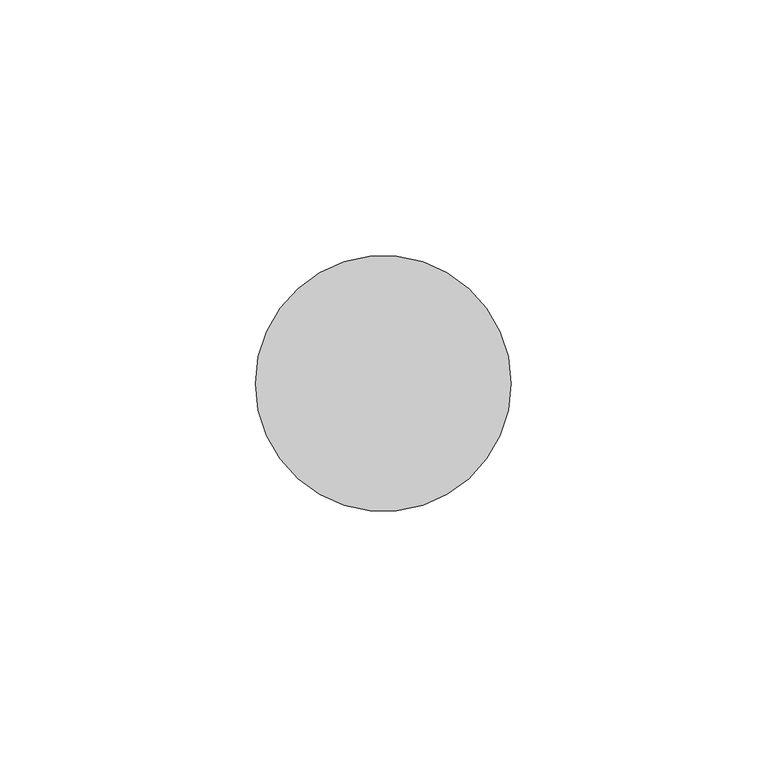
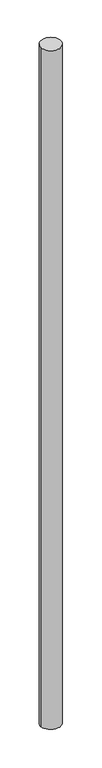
"""IFC4 building model written with IfcOpenShell, lengths in millimetres: member geometry, 圓形豎框 : 25mm 半徑."""

from ifc_helpers import new_model, si_unit, frame, origin, origin_with_axes, place, context, project, spatial, circle_curve, ellipse_curve, source, transform, mapped, element, save
from ifc_brep_helpers import plane_surface, cylinder_surface, advanced_brep


def member_e3690c8c(model_context):
    return source(origin(), model_context, "Body", "AdvancedBrep", [
        advanced_brep(
        [(25.0, 0.0, 0.0), (-25.0, 0.0, 0.0), (25.0, 0.0, -1775.0), (-25.0, 0.0, -1775.0)],
        [
            (0, 1, circle_curve(origin_with_axes(), 25.0)),
            (1, 0, circle_curve(origin_with_axes(), 25.0)),
            (0, 2),
            (2, 3, ellipse_curve(frame((0.0, 0.0, -1775.0), z_axis=(0.0, 0.0750334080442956, 0.9971810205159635), x_axis=(0.0, -0.9971810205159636, 0.0750334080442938)), 25.0706737, 25.0)),
            (3, 1),
            (3, 2, ellipse_curve(frame((0.0, 0.0, -1775.0), z_axis=(0.0, 0.0750334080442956, 0.9971810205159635), x_axis=(0.0, -0.9971810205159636, 0.0750334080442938)), 25.0706737, 25.0)),
        ],
        [
            plane_surface(frame((0.0, -25.0, 0.0), z_axis=(0.0, 0.0, 1.0), x_axis=(-1.0, 0.0, 0.0))),
            cylinder_surface(origin_with_axes(), 25.0),
            plane_surface(frame((304.8, 0.0, -1775.0), z_axis=(0.0, -0.0750334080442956, -0.9971810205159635), x_axis=(0.0, -0.9971810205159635, 0.0750334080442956))),
        ],
        [
            (0, [[1, 2]]),
            (1, [[-1, 3, 4, 5]]),
            (1, [[-2, -5, 6, -3]]),
            (2, [[-6, -4]]),
        ],
    ),
    ])


if __name__ == "__main__":
    model = new_model("IFC4")
    model_context = context("Model", 3, world=origin())
    ifc_project = project(units=[si_unit("LENGTHUNIT", "METRE", prefix="MILLI")], contexts=[model_context])
    site = spatial("IfcSite", under=ifc_project)
    building = spatial("IfcBuilding", under=site)
    placement = place(None, origin())
    member_shape = member_e3690c8c(model_context)
    element("IfcMember", 1, ObjectType="圓形豎框 : 25mm 半徑", at=placement, inside=building, context=model_context, shape_type="MappedRepresentation", body=[
        mapped(member_shape, transform((0.0, 0.0, 0.0), x_axis=(1.0, 0.0, 0.0), y_axis=(0.0, 1.0, 0.0), z_axis=(0.0, 0.0, 1.0))),
    ])
    save(model, "model.ifc")
